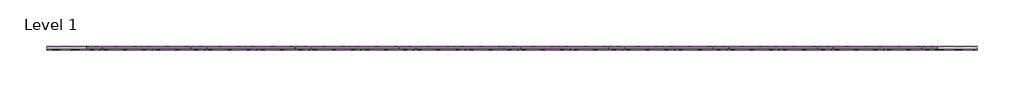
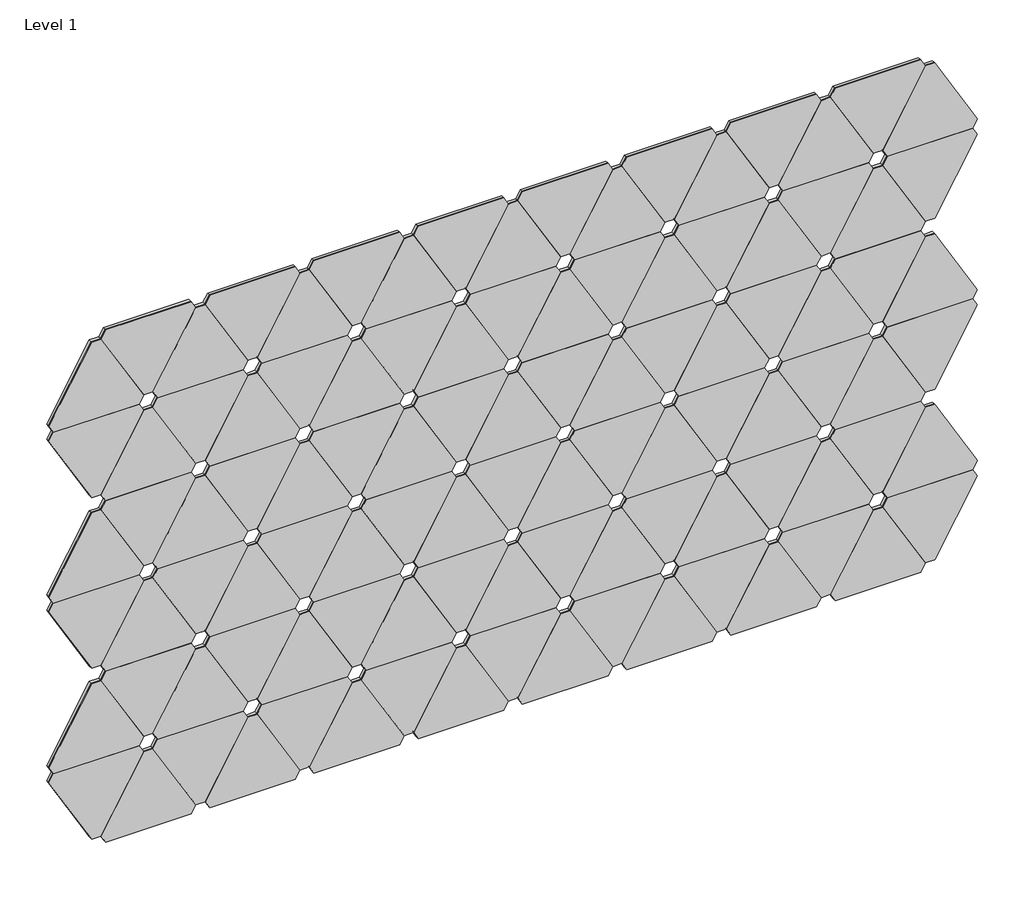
# One storey: 102 proxies.
"""IFC4 building model written with IfcOpenShell, lengths in millimetres."""

from ifc_helpers import new_model, si_unit, origin, place, context, project, spatial, transform, mapped, element, save
from components import aro_block_1_febfece8

model = new_model("IFC4")

# Units and contexts
model_context = context("Model", 3, world=origin())
ifc_project = project(units=[si_unit("LENGTHUNIT", "METRE", prefix="MILLI")], contexts=[model_context])

# Site, building, storey
site = spatial("IfcSite", under=ifc_project)
building = spatial("IfcBuilding", under=site)
storey = spatial("IfcBuildingStorey", under=building, Name="Level 1", Elevation=0.0)

# Proxies
placement = place(None, origin())
aro_block_1_shape = aro_block_1_febfece8(model_context)
element("IfcBuildingElementProxy", 1, Name="FilzFelt_ARO_Block 1 : ARO Block 1", ObjectType="FilzFelt_ARO_Block 1 : ARO Block 1", at=placement, inside=storey, context=model_context, shape_type="MappedRepresentation", body=[
    mapped(aro_block_1_shape, transform((-8273.5652095, 3946.8352795, 1042.1905508), x_axis=(1.0, 0.0, 0.0), y_axis=(0.0, 0.0, 1.0), z_axis=(0.0, -1.0, 0.0))),
])
element("IfcBuildingElementProxy", 2, Name="FilzFelt_ARO_Block 1 : ARO Block 1", ObjectType="FilzFelt_ARO_Block 1 : ARO Block 1", at=placement, inside=storey, context=model_context, shape_type="MappedRepresentation", body=[
    mapped(aro_block_1_shape, transform((-8451.3652095, 3946.8352795, 1144.8434287), x_axis=(-1.0, 0.0, 0.0), y_axis=(0.0, 0.0, -1.0), z_axis=(0.0, -1.0, 0.0))),
])
element("IfcBuildingElementProxy", 3, Name="FilzFelt_ARO_Block 1 : ARO Block 1", ObjectType="FilzFelt_ARO_Block 1 : ARO Block 1", at=placement, inside=storey, context=model_context, shape_type="MappedRepresentation", body=[
    mapped(aro_block_1_shape, transform((-8451.3652095, 3946.8352795, 1350.1491844), x_axis=(1.0, 0.0, 0.0), y_axis=(0.0, 0.0, 1.0), z_axis=(0.0, -1.0, 0.0))),
])
element("IfcBuildingElementProxy", 4, Name="FilzFelt_ARO_Block 1 : ARO Block 1", ObjectType="FilzFelt_ARO_Block 1 : ARO Block 1", at=placement, inside=storey, context=model_context, shape_type="MappedRepresentation", body=[
    mapped(aro_block_1_shape, transform((-8095.7652095, 3946.8352795, 1144.8434287), x_axis=(-1.0, 0.0, 0.0), y_axis=(0.0, 0.0, -1.0), z_axis=(0.0, -1.0, 0.0))),
])
element("IfcBuildingElementProxy", 5, Name="FilzFelt_ARO_Block 1 : ARO Block 1", ObjectType="FilzFelt_ARO_Block 1 : ARO Block 1", at=placement, inside=storey, context=model_context, shape_type="MappedRepresentation", body=[
    mapped(aro_block_1_shape, transform((-7917.9652095, 3946.8352795, 1042.1905508), x_axis=(1.0, 0.0, 0.0), y_axis=(0.0, 0.0, 1.0), z_axis=(0.0, -1.0, 0.0))),
])
element("IfcBuildingElementProxy", 6, Name="FilzFelt_ARO_Block 1 : ARO Block 1", ObjectType="FilzFelt_ARO_Block 1 : ARO Block 1", at=placement, inside=storey, context=model_context, shape_type="MappedRepresentation", body=[
    mapped(aro_block_1_shape, transform((-7917.9652095, 3946.8352795, 836.8847951), x_axis=(-1.0, 0.0, 0.0), y_axis=(0.0, 0.0, -1.0), z_axis=(0.0, -1.0, 0.0))),
])
element("IfcBuildingElementProxy", 7, Name="FilzFelt_ARO_Block 1 : ARO Block 1", ObjectType="FilzFelt_ARO_Block 1 : ARO Block 1", at=placement, inside=storey, context=model_context, shape_type="MappedRepresentation", body=[
    mapped(aro_block_1_shape, transform((-7562.3652095, 3946.8352795, 836.8847951), x_axis=(-1.0, 0.0, 0.0), y_axis=(0.0, 0.0, -1.0), z_axis=(0.0, -1.0, 0.0))),
])
element("IfcBuildingElementProxy", 8, Name="FilzFelt_ARO_Block 1 : ARO Block 1", ObjectType="FilzFelt_ARO_Block 1 : ARO Block 1", at=placement, inside=storey, context=model_context, shape_type="MappedRepresentation", body=[
    mapped(aro_block_1_shape, transform((-7740.1652095, 3946.8352795, 734.2319173), x_axis=(1.0, 0.0, 0.0), y_axis=(0.0, 0.0, 1.0), z_axis=(0.0, -1.0, 0.0))),
])
element("IfcBuildingElementProxy", 9, Name="FilzFelt_ARO_Block 1 : ARO Block 1", ObjectType="FilzFelt_ARO_Block 1 : ARO Block 1", at=placement, inside=storey, context=model_context, shape_type="MappedRepresentation", body=[
    mapped(aro_block_1_shape, transform((-7562.3652095, 3946.8352795, 2274.0250852), x_axis=(1.0, 0.0, 0.0), y_axis=(0.0, 0.0, 1.0), z_axis=(0.0, -1.0, 0.0))),
])
element("IfcBuildingElementProxy", 10, Name="FilzFelt_ARO_Block 1 : ARO Block 1", ObjectType="FilzFelt_ARO_Block 1 : ARO Block 1", at=placement, inside=storey, context=model_context, shape_type="MappedRepresentation", body=[
    mapped(aro_block_1_shape, transform((-7384.5652095, 3946.8352795, 2376.6779631), x_axis=(-1.0, 0.0, 0.0), y_axis=(0.0, 0.0, -1.0), z_axis=(0.0, -1.0, 0.0))),
])
element("IfcBuildingElementProxy", 11, Name="FilzFelt_ARO_Block 1 : ARO Block 1", ObjectType="FilzFelt_ARO_Block 1 : ARO Block 1", at=placement, inside=storey, context=model_context, shape_type="MappedRepresentation", body=[
    mapped(aro_block_1_shape, transform((-7206.7652095, 3946.8352795, 2274.0250852), x_axis=(1.0, 0.0, 0.0), y_axis=(0.0, 0.0, 1.0), z_axis=(0.0, -1.0, 0.0))),
])
element("IfcBuildingElementProxy", 12, Name="FilzFelt_ARO_Block 1 : ARO Block 1", ObjectType="FilzFelt_ARO_Block 1 : ARO Block 1", at=placement, inside=storey, context=model_context, shape_type="MappedRepresentation", body=[
    mapped(aro_block_1_shape, transform((-6851.1652095, 3946.8352795, 2274.0250852), x_axis=(1.0, 0.0, 0.0), y_axis=(0.0, 0.0, 1.0), z_axis=(0.0, -1.0, 0.0))),
])
element("IfcBuildingElementProxy", 13, Name="FilzFelt_ARO_Block 1 : ARO Block 1", ObjectType="FilzFelt_ARO_Block 1 : ARO Block 1", at=placement, inside=storey, context=model_context, shape_type="MappedRepresentation", body=[
    mapped(aro_block_1_shape, transform((-7028.9652095, 3946.8352795, 2376.6779631), x_axis=(-1.0, 0.0, 0.0), y_axis=(0.0, 0.0, -1.0), z_axis=(0.0, -1.0, 0.0))),
])
element("IfcBuildingElementProxy", 14, Name="FilzFelt_ARO_Block 1 : ARO Block 1", ObjectType="FilzFelt_ARO_Block 1 : ARO Block 1", at=placement, inside=storey, context=model_context, shape_type="MappedRepresentation", body=[
    mapped(aro_block_1_shape, transform((-6851.1652095, 3946.8352795, 2068.7193295), x_axis=(-1.0, 0.0, 0.0), y_axis=(0.0, 0.0, -1.0), z_axis=(0.0, -1.0, 0.0))),
])
element("IfcBuildingElementProxy", 15, Name="FilzFelt_ARO_Block 1 : ARO Block 1", ObjectType="FilzFelt_ARO_Block 1 : ARO Block 1", at=placement, inside=storey, context=model_context, shape_type="MappedRepresentation", body=[
    mapped(aro_block_1_shape, transform((-6673.3652095, 3946.8352795, 1966.0664516), x_axis=(1.0, 0.0, 0.0), y_axis=(0.0, 0.0, 1.0), z_axis=(0.0, -1.0, 0.0))),
])
element("IfcBuildingElementProxy", 16, Name="FilzFelt_ARO_Block 1 : ARO Block 1", ObjectType="FilzFelt_ARO_Block 1 : ARO Block 1", at=placement, inside=storey, context=model_context, shape_type="MappedRepresentation", body=[
    mapped(aro_block_1_shape, transform((-6495.5652095, 3946.8352795, 2068.7193295), x_axis=(-1.0, 0.0, 0.0), y_axis=(0.0, 0.0, -1.0), z_axis=(0.0, -1.0, 0.0))),
])
element("IfcBuildingElementProxy", 17, Name="FilzFelt_ARO_Block 1 : ARO Block 1", ObjectType="FilzFelt_ARO_Block 1 : ARO Block 1", at=placement, inside=storey, context=model_context, shape_type="MappedRepresentation", body=[
    mapped(aro_block_1_shape, transform((-6317.7652095, 3946.8352795, 1966.0664516), x_axis=(1.0, 0.0, 0.0), y_axis=(0.0, 0.0, 1.0), z_axis=(0.0, -1.0, 0.0))),
])
element("IfcBuildingElementProxy", 18, Name="FilzFelt_ARO_Block 1 : ARO Block 1", ObjectType="FilzFelt_ARO_Block 1 : ARO Block 1", at=placement, inside=storey, context=model_context, shape_type="MappedRepresentation", body=[
    mapped(aro_block_1_shape, transform((-6139.9652095, 3946.8352795, 2274.0250852), x_axis=(1.0, 0.0, 0.0), y_axis=(0.0, 0.0, 1.0), z_axis=(0.0, -1.0, 0.0))),
])
element("IfcBuildingElementProxy", 19, Name="FilzFelt_ARO_Block 1 : ARO Block 1", ObjectType="FilzFelt_ARO_Block 1 : ARO Block 1", at=placement, inside=storey, context=model_context, shape_type="MappedRepresentation", body=[
    mapped(aro_block_1_shape, transform((-5962.1652095, 3946.8352795, 2376.6779631), x_axis=(-1.0, 0.0, 0.0), y_axis=(0.0, 0.0, -1.0), z_axis=(0.0, -1.0, 0.0))),
])
element("IfcBuildingElementProxy", 20, Name="FilzFelt_ARO_Block 1 : ARO Block 1", ObjectType="FilzFelt_ARO_Block 1 : ARO Block 1", at=placement, inside=storey, context=model_context, shape_type="MappedRepresentation", body=[
    mapped(aro_block_1_shape, transform((-6139.9652095, 3946.8352795, 2068.7193295), x_axis=(-1.0, 0.0, 0.0), y_axis=(0.0, 0.0, -1.0), z_axis=(0.0, -1.0, 0.0))),
])
element("IfcBuildingElementProxy", 21, Name="FilzFelt_ARO_Block 1 : ARO Block 1", ObjectType="FilzFelt_ARO_Block 1 : ARO Block 1", at=placement, inside=storey, context=model_context, shape_type="MappedRepresentation", body=[
    mapped(aro_block_1_shape, transform((-8273.5652095, 3946.8352795, 2068.7193295), x_axis=(-1.0, 0.0, 0.0), y_axis=(0.0, 0.0, -1.0), z_axis=(0.0, -1.0, 0.0))),
])
element("IfcBuildingElementProxy", 22, Name="FilzFelt_ARO_Block 1 : ARO Block 1", ObjectType="FilzFelt_ARO_Block 1 : ARO Block 1", at=placement, inside=storey, context=model_context, shape_type="MappedRepresentation", body=[
    mapped(aro_block_1_shape, transform((-8451.3652095, 3946.8352795, 1966.0664516), x_axis=(1.0, 0.0, 0.0), y_axis=(0.0, 0.0, 1.0), z_axis=(0.0, -1.0, 0.0))),
])
element("IfcBuildingElementProxy", 23, Name="FilzFelt_ARO_Block 1 : ARO Block 1", ObjectType="FilzFelt_ARO_Block 1 : ARO Block 1", at=placement, inside=storey, context=model_context, shape_type="MappedRepresentation", body=[
    mapped(aro_block_1_shape, transform((-8095.7652095, 3946.8352795, 1966.0664516), x_axis=(1.0, 0.0, 0.0), y_axis=(0.0, 0.0, 1.0), z_axis=(0.0, -1.0, 0.0))),
])
element("IfcBuildingElementProxy", 24, Name="FilzFelt_ARO_Block 1 : ARO Block 1", ObjectType="FilzFelt_ARO_Block 1 : ARO Block 1", at=placement, inside=storey, context=model_context, shape_type="MappedRepresentation", body=[
    mapped(aro_block_1_shape, transform((-8095.7652095, 3946.8352795, 1760.7606959), x_axis=(-1.0, 0.0, 0.0), y_axis=(0.0, 0.0, -1.0), z_axis=(0.0, -1.0, 0.0))),
])
element("IfcBuildingElementProxy", 25, Name="FilzFelt_ARO_Block 1 : ARO Block 1", ObjectType="FilzFelt_ARO_Block 1 : ARO Block 1", at=placement, inside=storey, context=model_context, shape_type="MappedRepresentation", body=[
    mapped(aro_block_1_shape, transform((-7917.9652095, 3946.8352795, 1658.107818), x_axis=(1.0, 0.0, 0.0), y_axis=(0.0, 0.0, 1.0), z_axis=(0.0, -1.0, 0.0))),
])
element("IfcBuildingElementProxy", 26, Name="FilzFelt_ARO_Block 1 : ARO Block 1", ObjectType="FilzFelt_ARO_Block 1 : ARO Block 1", at=placement, inside=storey, context=model_context, shape_type="MappedRepresentation", body=[
    mapped(aro_block_1_shape, transform((-7740.1652095, 3946.8352795, 1760.7606959), x_axis=(-1.0, 0.0, 0.0), y_axis=(0.0, 0.0, -1.0), z_axis=(0.0, -1.0, 0.0))),
])
element("IfcBuildingElementProxy", 27, Name="FilzFelt_ARO_Block 1 : ARO Block 1", ObjectType="FilzFelt_ARO_Block 1 : ARO Block 1", at=placement, inside=storey, context=model_context, shape_type="MappedRepresentation", body=[
    mapped(aro_block_1_shape, transform((-7384.5652095, 3946.8352795, 1350.1491844), x_axis=(1.0, 0.0, 0.0), y_axis=(0.0, 0.0, 1.0), z_axis=(0.0, -1.0, 0.0))),
])
element("IfcBuildingElementProxy", 28, Name="FilzFelt_ARO_Block 1 : ARO Block 1", ObjectType="FilzFelt_ARO_Block 1 : ARO Block 1", at=placement, inside=storey, context=model_context, shape_type="MappedRepresentation", body=[
    mapped(aro_block_1_shape, transform((-6851.1652095, 3946.8352795, 1042.1905508), x_axis=(1.0, 0.0, 0.0), y_axis=(0.0, 0.0, 1.0), z_axis=(0.0, -1.0, 0.0))),
])
element("IfcBuildingElementProxy", 29, Name="FilzFelt_ARO_Block 1 : ARO Block 1", ObjectType="FilzFelt_ARO_Block 1 : ARO Block 1", at=placement, inside=storey, context=model_context, shape_type="MappedRepresentation", body=[
    mapped(aro_block_1_shape, transform((-7028.9652095, 3946.8352795, 1144.8434287), x_axis=(-1.0, 0.0, 0.0), y_axis=(0.0, 0.0, -1.0), z_axis=(0.0, -1.0, 0.0))),
])
element("IfcBuildingElementProxy", 30, Name="FilzFelt_ARO_Block 1 : ARO Block 1", ObjectType="FilzFelt_ARO_Block 1 : ARO Block 1", at=placement, inside=storey, context=model_context, shape_type="MappedRepresentation", body=[
    mapped(aro_block_1_shape, transform((-7206.7652095, 3946.8352795, 1452.8020623), x_axis=(-1.0, 0.0, 0.0), y_axis=(0.0, 0.0, -1.0), z_axis=(0.0, -1.0, 0.0))),
])
element("IfcBuildingElementProxy", 31, Name="FilzFelt_ARO_Block 1 : ARO Block 1", ObjectType="FilzFelt_ARO_Block 1 : ARO Block 1", at=placement, inside=storey, context=model_context, shape_type="MappedRepresentation", body=[
    mapped(aro_block_1_shape, transform((-7028.9652095, 3946.8352795, 1350.1491844), x_axis=(1.0, 0.0, 0.0), y_axis=(0.0, 0.0, 1.0), z_axis=(0.0, -1.0, 0.0))),
])
element("IfcBuildingElementProxy", 32, Name="FilzFelt_ARO_Block 1 : ARO Block 1", ObjectType="FilzFelt_ARO_Block 1 : ARO Block 1", at=placement, inside=storey, context=model_context, shape_type="MappedRepresentation", body=[
    mapped(aro_block_1_shape, transform((-6673.3652095, 3946.8352795, 1144.8434287), x_axis=(-1.0, 0.0, 0.0), y_axis=(0.0, 0.0, -1.0), z_axis=(0.0, -1.0, 0.0))),
])
element("IfcBuildingElementProxy", 33, Name="FilzFelt_ARO_Block 1 : ARO Block 1", ObjectType="FilzFelt_ARO_Block 1 : ARO Block 1", at=placement, inside=storey, context=model_context, shape_type="MappedRepresentation", body=[
    mapped(aro_block_1_shape, transform((-6495.5652095, 3946.8352795, 1042.1905508), x_axis=(1.0, 0.0, 0.0), y_axis=(0.0, 0.0, 1.0), z_axis=(0.0, -1.0, 0.0))),
])
element("IfcBuildingElementProxy", 34, Name="FilzFelt_ARO_Block 1 : ARO Block 1", ObjectType="FilzFelt_ARO_Block 1 : ARO Block 1", at=placement, inside=storey, context=model_context, shape_type="MappedRepresentation", body=[
    mapped(aro_block_1_shape, transform((-6317.7652095, 3946.8352795, 1350.1491844), x_axis=(1.0, 0.0, 0.0), y_axis=(0.0, 0.0, 1.0), z_axis=(0.0, -1.0, 0.0))),
])
element("IfcBuildingElementProxy", 35, Name="FilzFelt_ARO_Block 1 : ARO Block 1", ObjectType="FilzFelt_ARO_Block 1 : ARO Block 1", at=placement, inside=storey, context=model_context, shape_type="MappedRepresentation", body=[
    mapped(aro_block_1_shape, transform((-6317.7652095, 3946.8352795, 1144.8434287), x_axis=(-1.0, 0.0, 0.0), y_axis=(0.0, 0.0, -1.0), z_axis=(0.0, -1.0, 0.0))),
])
element("IfcBuildingElementProxy", 36, Name="FilzFelt_ARO_Block 1 : ARO Block 1", ObjectType="FilzFelt_ARO_Block 1 : ARO Block 1", at=placement, inside=storey, context=model_context, shape_type="MappedRepresentation", body=[
    mapped(aro_block_1_shape, transform((-6139.9652095, 3946.8352795, 1452.8020623), x_axis=(-1.0, 0.0, 0.0), y_axis=(0.0, 0.0, -1.0), z_axis=(0.0, -1.0, 0.0))),
])
element("IfcBuildingElementProxy", 37, Name="FilzFelt_ARO_Block 1 : ARO Block 1", ObjectType="FilzFelt_ARO_Block 1 : ARO Block 1", at=placement, inside=storey, context=model_context, shape_type="MappedRepresentation", body=[
    mapped(aro_block_1_shape, transform((-5962.1652095, 3946.8352795, 1350.1491844), x_axis=(1.0, 0.0, 0.0), y_axis=(0.0, 0.0, 1.0), z_axis=(0.0, -1.0, 0.0))),
])
element("IfcBuildingElementProxy", 38, Name="FilzFelt_ARO_Block 1 : ARO Block 1", ObjectType="FilzFelt_ARO_Block 1 : ARO Block 1", at=placement, inside=storey, context=model_context, shape_type="MappedRepresentation", body=[
    mapped(aro_block_1_shape, transform((-8629.1652095, 3946.8352795, 1042.1905508), x_axis=(1.0, 0.0, 0.0), y_axis=(0.0, 0.0, 1.0), z_axis=(0.0, -1.0, 0.0))),
])
element("IfcBuildingElementProxy", 39, Name="FilzFelt_ARO_Block 1 : ARO Block 1", ObjectType="FilzFelt_ARO_Block 1 : ARO Block 1", at=placement, inside=storey, context=model_context, shape_type="MappedRepresentation", body=[
    mapped(aro_block_1_shape, transform((-8629.1652095, 3946.8352795, 836.8847951), x_axis=(-1.0, 0.0, 0.0), y_axis=(0.0, 0.0, -1.0), z_axis=(0.0, -1.0, 0.0))),
])
element("IfcBuildingElementProxy", 40, Name="FilzFelt_ARO_Block 1 : ARO Block 1", ObjectType="FilzFelt_ARO_Block 1 : ARO Block 1", at=placement, inside=storey, context=model_context, shape_type="MappedRepresentation", body=[
    mapped(aro_block_1_shape, transform((-8273.5652095, 3946.8352795, 836.8847951), x_axis=(-1.0, 0.0, 0.0), y_axis=(0.0, 0.0, -1.0), z_axis=(0.0, -1.0, 0.0))),
])
element("IfcBuildingElementProxy", 41, Name="FilzFelt_ARO_Block 1 : ARO Block 1", ObjectType="FilzFelt_ARO_Block 1 : ARO Block 1", at=placement, inside=storey, context=model_context, shape_type="MappedRepresentation", body=[
    mapped(aro_block_1_shape, transform((-8451.3652095, 3946.8352795, 734.2319173), x_axis=(1.0, 0.0, 0.0), y_axis=(0.0, 0.0, 1.0), z_axis=(0.0, -1.0, 0.0))),
])
element("IfcBuildingElementProxy", 42, Name="FilzFelt_ARO_Block 1 : ARO Block 1", ObjectType="FilzFelt_ARO_Block 1 : ARO Block 1", at=placement, inside=storey, context=model_context, shape_type="MappedRepresentation", body=[
    mapped(aro_block_1_shape, transform((-8629.1652095, 3946.8352795, 1658.107818), x_axis=(1.0, 0.0, 0.0), y_axis=(0.0, 0.0, 1.0), z_axis=(0.0, -1.0, 0.0))),
])
element("IfcBuildingElementProxy", 43, Name="FilzFelt_ARO_Block 1 : ARO Block 1", ObjectType="FilzFelt_ARO_Block 1 : ARO Block 1", at=placement, inside=storey, context=model_context, shape_type="MappedRepresentation", body=[
    mapped(aro_block_1_shape, transform((-8273.5652095, 3946.8352795, 1658.107818), x_axis=(1.0, 0.0, 0.0), y_axis=(0.0, 0.0, 1.0), z_axis=(0.0, -1.0, 0.0))),
])
element("IfcBuildingElementProxy", 44, Name="FilzFelt_ARO_Block 1 : ARO Block 1", ObjectType="FilzFelt_ARO_Block 1 : ARO Block 1", at=placement, inside=storey, context=model_context, shape_type="MappedRepresentation", body=[
    mapped(aro_block_1_shape, transform((-8451.3652095, 3946.8352795, 1760.7606959), x_axis=(-1.0, 0.0, 0.0), y_axis=(0.0, 0.0, -1.0), z_axis=(0.0, -1.0, 0.0))),
])
element("IfcBuildingElementProxy", 45, Name="FilzFelt_ARO_Block 1 : ARO Block 1", ObjectType="FilzFelt_ARO_Block 1 : ARO Block 1", at=placement, inside=storey, context=model_context, shape_type="MappedRepresentation", body=[
    mapped(aro_block_1_shape, transform((-8629.1652095, 3946.8352795, 1452.8020623), x_axis=(-1.0, 0.0, 0.0), y_axis=(0.0, 0.0, -1.0), z_axis=(0.0, -1.0, 0.0))),
])
element("IfcBuildingElementProxy", 46, Name="FilzFelt_ARO_Block 1 : ARO Block 1", ObjectType="FilzFelt_ARO_Block 1 : ARO Block 1", at=placement, inside=storey, context=model_context, shape_type="MappedRepresentation", body=[
    mapped(aro_block_1_shape, transform((-8273.5652095, 3946.8352795, 1452.8020623), x_axis=(-1.0, 0.0, 0.0), y_axis=(0.0, 0.0, -1.0), z_axis=(0.0, -1.0, 0.0))),
])
element("IfcBuildingElementProxy", 47, Name="FilzFelt_ARO_Block 1 : ARO Block 1", ObjectType="FilzFelt_ARO_Block 1 : ARO Block 1", at=placement, inside=storey, context=model_context, shape_type="MappedRepresentation", body=[
    mapped(aro_block_1_shape, transform((-8629.1652095, 3946.8352795, 2274.0250852), x_axis=(1.0, 0.0, 0.0), y_axis=(0.0, 0.0, 1.0), z_axis=(0.0, -1.0, 0.0))),
])
element("IfcBuildingElementProxy", 48, Name="FilzFelt_ARO_Block 1 : ARO Block 1", ObjectType="FilzFelt_ARO_Block 1 : ARO Block 1", at=placement, inside=storey, context=model_context, shape_type="MappedRepresentation", body=[
    mapped(aro_block_1_shape, transform((-8273.5652095, 3946.8352795, 2274.0250852), x_axis=(1.0, 0.0, 0.0), y_axis=(0.0, 0.0, 1.0), z_axis=(0.0, -1.0, 0.0))),
])
element("IfcBuildingElementProxy", 49, Name="FilzFelt_ARO_Block 1 : ARO Block 1", ObjectType="FilzFelt_ARO_Block 1 : ARO Block 1", at=placement, inside=storey, context=model_context, shape_type="MappedRepresentation", body=[
    mapped(aro_block_1_shape, transform((-8451.3652095, 3946.8352795, 2376.6779631), x_axis=(-1.0, 0.0, 0.0), y_axis=(0.0, 0.0, -1.0), z_axis=(0.0, -1.0, 0.0))),
])
element("IfcBuildingElementProxy", 50, Name="FilzFelt_ARO_Block 1 : ARO Block 1", ObjectType="FilzFelt_ARO_Block 1 : ARO Block 1", at=placement, inside=storey, context=model_context, shape_type="MappedRepresentation", body=[
    mapped(aro_block_1_shape, transform((-8629.1652095, 3946.8352795, 2068.7193295), x_axis=(-1.0, 0.0, 0.0), y_axis=(0.0, 0.0, -1.0), z_axis=(0.0, -1.0, 0.0))),
])
element("IfcBuildingElementProxy", 51, Name="FilzFelt_ARO_Block 1 : ARO Block 1", ObjectType="FilzFelt_ARO_Block 1 : ARO Block 1", at=placement, inside=storey, context=model_context, shape_type="MappedRepresentation", body=[
    mapped(aro_block_1_shape, transform((-8095.7652095, 3946.8352795, 1350.1491844), x_axis=(1.0, 0.0, 0.0), y_axis=(0.0, 0.0, 1.0), z_axis=(0.0, -1.0, 0.0))),
])
element("IfcBuildingElementProxy", 52, Name="FilzFelt_ARO_Block 1 : ARO Block 1", ObjectType="FilzFelt_ARO_Block 1 : ARO Block 1", at=placement, inside=storey, context=model_context, shape_type="MappedRepresentation", body=[
    mapped(aro_block_1_shape, transform((-8095.7652095, 3946.8352795, 734.2319173), x_axis=(1.0, 0.0, 0.0), y_axis=(0.0, 0.0, 1.0), z_axis=(0.0, -1.0, 0.0))),
])
element("IfcBuildingElementProxy", 53, Name="FilzFelt_ARO_Block 1 : ARO Block 1", ObjectType="FilzFelt_ARO_Block 1 : ARO Block 1", at=placement, inside=storey, context=model_context, shape_type="MappedRepresentation", body=[
    mapped(aro_block_1_shape, transform((-8095.7652095, 3946.8352795, 2376.6779631), x_axis=(-1.0, 0.0, 0.0), y_axis=(0.0, 0.0, -1.0), z_axis=(0.0, -1.0, 0.0))),
])
element("IfcBuildingElementProxy", 54, Name="FilzFelt_ARO_Block 1 : ARO Block 1", ObjectType="FilzFelt_ARO_Block 1 : ARO Block 1", at=placement, inside=storey, context=model_context, shape_type="MappedRepresentation", body=[
    mapped(aro_block_1_shape, transform((-7562.3652095, 3946.8352795, 1042.1905508), x_axis=(1.0, 0.0, 0.0), y_axis=(0.0, 0.0, 1.0), z_axis=(0.0, -1.0, 0.0))),
])
element("IfcBuildingElementProxy", 55, Name="FilzFelt_ARO_Block 1 : ARO Block 1", ObjectType="FilzFelt_ARO_Block 1 : ARO Block 1", at=placement, inside=storey, context=model_context, shape_type="MappedRepresentation", body=[
    mapped(aro_block_1_shape, transform((-7740.1652095, 3946.8352795, 1144.8434287), x_axis=(-1.0, 0.0, 0.0), y_axis=(0.0, 0.0, -1.0), z_axis=(0.0, -1.0, 0.0))),
])
element("IfcBuildingElementProxy", 56, Name="FilzFelt_ARO_Block 1 : ARO Block 1", ObjectType="FilzFelt_ARO_Block 1 : ARO Block 1", at=placement, inside=storey, context=model_context, shape_type="MappedRepresentation", body=[
    mapped(aro_block_1_shape, transform((-7562.3652095, 3946.8352795, 1658.107818), x_axis=(1.0, 0.0, 0.0), y_axis=(0.0, 0.0, 1.0), z_axis=(0.0, -1.0, 0.0))),
])
element("IfcBuildingElementProxy", 57, Name="FilzFelt_ARO_Block 1 : ARO Block 1", ObjectType="FilzFelt_ARO_Block 1 : ARO Block 1", at=placement, inside=storey, context=model_context, shape_type="MappedRepresentation", body=[
    mapped(aro_block_1_shape, transform((-7917.9652095, 3946.8352795, 1452.8020623), x_axis=(-1.0, 0.0, 0.0), y_axis=(0.0, 0.0, -1.0), z_axis=(0.0, -1.0, 0.0))),
])
element("IfcBuildingElementProxy", 58, Name="FilzFelt_ARO_Block 1 : ARO Block 1", ObjectType="FilzFelt_ARO_Block 1 : ARO Block 1", at=placement, inside=storey, context=model_context, shape_type="MappedRepresentation", body=[
    mapped(aro_block_1_shape, transform((-7562.3652095, 3946.8352795, 1452.8020623), x_axis=(-1.0, 0.0, 0.0), y_axis=(0.0, 0.0, -1.0), z_axis=(0.0, -1.0, 0.0))),
])
element("IfcBuildingElementProxy", 59, Name="FilzFelt_ARO_Block 1 : ARO Block 1", ObjectType="FilzFelt_ARO_Block 1 : ARO Block 1", at=placement, inside=storey, context=model_context, shape_type="MappedRepresentation", body=[
    mapped(aro_block_1_shape, transform((-7740.1652095, 3946.8352795, 1350.1491844), x_axis=(1.0, 0.0, 0.0), y_axis=(0.0, 0.0, 1.0), z_axis=(0.0, -1.0, 0.0))),
])
element("IfcBuildingElementProxy", 60, Name="FilzFelt_ARO_Block 1 : ARO Block 1", ObjectType="FilzFelt_ARO_Block 1 : ARO Block 1", at=placement, inside=storey, context=model_context, shape_type="MappedRepresentation", body=[
    mapped(aro_block_1_shape, transform((-7917.9652095, 3946.8352795, 2274.0250852), x_axis=(1.0, 0.0, 0.0), y_axis=(0.0, 0.0, 1.0), z_axis=(0.0, -1.0, 0.0))),
])
element("IfcBuildingElementProxy", 61, Name="FilzFelt_ARO_Block 1 : ARO Block 1", ObjectType="FilzFelt_ARO_Block 1 : ARO Block 1", at=placement, inside=storey, context=model_context, shape_type="MappedRepresentation", body=[
    mapped(aro_block_1_shape, transform((-7740.1652095, 3946.8352795, 2376.6779631), x_axis=(-1.0, 0.0, 0.0), y_axis=(0.0, 0.0, -1.0), z_axis=(0.0, -1.0, 0.0))),
])
element("IfcBuildingElementProxy", 62, Name="FilzFelt_ARO_Block 1 : ARO Block 1", ObjectType="FilzFelt_ARO_Block 1 : ARO Block 1", at=placement, inside=storey, context=model_context, shape_type="MappedRepresentation", body=[
    mapped(aro_block_1_shape, transform((-7917.9652095, 3946.8352795, 2068.7193295), x_axis=(-1.0, 0.0, 0.0), y_axis=(0.0, 0.0, -1.0), z_axis=(0.0, -1.0, 0.0))),
])
element("IfcBuildingElementProxy", 63, Name="FilzFelt_ARO_Block 1 : ARO Block 1", ObjectType="FilzFelt_ARO_Block 1 : ARO Block 1", at=placement, inside=storey, context=model_context, shape_type="MappedRepresentation", body=[
    mapped(aro_block_1_shape, transform((-7562.3652095, 3946.8352795, 2068.7193295), x_axis=(-1.0, 0.0, 0.0), y_axis=(0.0, 0.0, -1.0), z_axis=(0.0, -1.0, 0.0))),
])
element("IfcBuildingElementProxy", 64, Name="FilzFelt_ARO_Block 1 : ARO Block 1", ObjectType="FilzFelt_ARO_Block 1 : ARO Block 1", at=placement, inside=storey, context=model_context, shape_type="MappedRepresentation", body=[
    mapped(aro_block_1_shape, transform((-7740.1652095, 3946.8352795, 1966.0664516), x_axis=(1.0, 0.0, 0.0), y_axis=(0.0, 0.0, 1.0), z_axis=(0.0, -1.0, 0.0))),
])
element("IfcBuildingElementProxy", 65, Name="FilzFelt_ARO_Block 1 : ARO Block 1", ObjectType="FilzFelt_ARO_Block 1 : ARO Block 1", at=placement, inside=storey, context=model_context, shape_type="MappedRepresentation", body=[
    mapped(aro_block_1_shape, transform((-7384.5652095, 3946.8352795, 1966.0664516), x_axis=(1.0, 0.0, 0.0), y_axis=(0.0, 0.0, 1.0), z_axis=(0.0, -1.0, 0.0))),
])
element("IfcBuildingElementProxy", 66, Name="FilzFelt_ARO_Block 1 : ARO Block 1", ObjectType="FilzFelt_ARO_Block 1 : ARO Block 1", at=placement, inside=storey, context=model_context, shape_type="MappedRepresentation", body=[
    mapped(aro_block_1_shape, transform((-7384.5652095, 3946.8352795, 734.2319173), x_axis=(1.0, 0.0, 0.0), y_axis=(0.0, 0.0, 1.0), z_axis=(0.0, -1.0, 0.0))),
])
element("IfcBuildingElementProxy", 67, Name="FilzFelt_ARO_Block 1 : ARO Block 1", ObjectType="FilzFelt_ARO_Block 1 : ARO Block 1", at=placement, inside=storey, context=model_context, shape_type="MappedRepresentation", body=[
    mapped(aro_block_1_shape, transform((-7384.5652095, 3946.8352795, 1144.8434287), x_axis=(-1.0, 0.0, 0.0), y_axis=(0.0, 0.0, -1.0), z_axis=(0.0, -1.0, 0.0))),
])
element("IfcBuildingElementProxy", 68, Name="FilzFelt_ARO_Block 1 : ARO Block 1", ObjectType="FilzFelt_ARO_Block 1 : ARO Block 1", at=placement, inside=storey, context=model_context, shape_type="MappedRepresentation", body=[
    mapped(aro_block_1_shape, transform((-7384.5652095, 3946.8352795, 1760.7606959), x_axis=(-1.0, 0.0, 0.0), y_axis=(0.0, 0.0, -1.0), z_axis=(0.0, -1.0, 0.0))),
])
element("IfcBuildingElementProxy", 69, Name="FilzFelt_ARO_Block 1 : ARO Block 1", ObjectType="FilzFelt_ARO_Block 1 : ARO Block 1", at=placement, inside=storey, context=model_context, shape_type="MappedRepresentation", body=[
    mapped(aro_block_1_shape, transform((-7206.7652095, 3946.8352795, 1042.1905508), x_axis=(1.0, 0.0, 0.0), y_axis=(0.0, 0.0, 1.0), z_axis=(0.0, -1.0, 0.0))),
])
element("IfcBuildingElementProxy", 70, Name="FilzFelt_ARO_Block 1 : ARO Block 1", ObjectType="FilzFelt_ARO_Block 1 : ARO Block 1", at=placement, inside=storey, context=model_context, shape_type="MappedRepresentation", body=[
    mapped(aro_block_1_shape, transform((-7206.7652095, 3946.8352795, 836.8847951), x_axis=(-1.0, 0.0, 0.0), y_axis=(0.0, 0.0, -1.0), z_axis=(0.0, -1.0, 0.0))),
])
element("IfcBuildingElementProxy", 71, Name="FilzFelt_ARO_Block 1 : ARO Block 1", ObjectType="FilzFelt_ARO_Block 1 : ARO Block 1", at=placement, inside=storey, context=model_context, shape_type="MappedRepresentation", body=[
    mapped(aro_block_1_shape, transform((-6851.1652095, 3946.8352795, 836.8847951), x_axis=(-1.0, 0.0, 0.0), y_axis=(0.0, 0.0, -1.0), z_axis=(0.0, -1.0, 0.0))),
])
element("IfcBuildingElementProxy", 72, Name="FilzFelt_ARO_Block 1 : ARO Block 1", ObjectType="FilzFelt_ARO_Block 1 : ARO Block 1", at=placement, inside=storey, context=model_context, shape_type="MappedRepresentation", body=[
    mapped(aro_block_1_shape, transform((-7028.9652095, 3946.8352795, 734.2319173), x_axis=(1.0, 0.0, 0.0), y_axis=(0.0, 0.0, 1.0), z_axis=(0.0, -1.0, 0.0))),
])
element("IfcBuildingElementProxy", 73, Name="FilzFelt_ARO_Block 1 : ARO Block 1", ObjectType="FilzFelt_ARO_Block 1 : ARO Block 1", at=placement, inside=storey, context=model_context, shape_type="MappedRepresentation", body=[
    mapped(aro_block_1_shape, transform((-7206.7652095, 3946.8352795, 1658.107818), x_axis=(1.0, 0.0, 0.0), y_axis=(0.0, 0.0, 1.0), z_axis=(0.0, -1.0, 0.0))),
])
element("IfcBuildingElementProxy", 74, Name="FilzFelt_ARO_Block 1 : ARO Block 1", ObjectType="FilzFelt_ARO_Block 1 : ARO Block 1", at=placement, inside=storey, context=model_context, shape_type="MappedRepresentation", body=[
    mapped(aro_block_1_shape, transform((-6851.1652095, 3946.8352795, 1658.107818), x_axis=(1.0, 0.0, 0.0), y_axis=(0.0, 0.0, 1.0), z_axis=(0.0, -1.0, 0.0))),
])
element("IfcBuildingElementProxy", 75, Name="FilzFelt_ARO_Block 1 : ARO Block 1", ObjectType="FilzFelt_ARO_Block 1 : ARO Block 1", at=placement, inside=storey, context=model_context, shape_type="MappedRepresentation", body=[
    mapped(aro_block_1_shape, transform((-7028.9652095, 3946.8352795, 1760.7606959), x_axis=(-1.0, 0.0, 0.0), y_axis=(0.0, 0.0, -1.0), z_axis=(0.0, -1.0, 0.0))),
])
element("IfcBuildingElementProxy", 76, Name="FilzFelt_ARO_Block 1 : ARO Block 1", ObjectType="FilzFelt_ARO_Block 1 : ARO Block 1", at=placement, inside=storey, context=model_context, shape_type="MappedRepresentation", body=[
    mapped(aro_block_1_shape, transform((-6851.1652095, 3946.8352795, 1452.8020623), x_axis=(-1.0, 0.0, 0.0), y_axis=(0.0, 0.0, -1.0), z_axis=(0.0, -1.0, 0.0))),
])
element("IfcBuildingElementProxy", 77, Name="FilzFelt_ARO_Block 1 : ARO Block 1", ObjectType="FilzFelt_ARO_Block 1 : ARO Block 1", at=placement, inside=storey, context=model_context, shape_type="MappedRepresentation", body=[
    mapped(aro_block_1_shape, transform((-7206.7652095, 3946.8352795, 2068.7193295), x_axis=(-1.0, 0.0, 0.0), y_axis=(0.0, 0.0, -1.0), z_axis=(0.0, -1.0, 0.0))),
])
element("IfcBuildingElementProxy", 78, Name="FilzFelt_ARO_Block 1 : ARO Block 1", ObjectType="FilzFelt_ARO_Block 1 : ARO Block 1", at=placement, inside=storey, context=model_context, shape_type="MappedRepresentation", body=[
    mapped(aro_block_1_shape, transform((-7028.9652095, 3946.8352795, 1966.0664516), x_axis=(1.0, 0.0, 0.0), y_axis=(0.0, 0.0, 1.0), z_axis=(0.0, -1.0, 0.0))),
])
element("IfcBuildingElementProxy", 79, Name="FilzFelt_ARO_Block 1 : ARO Block 1", ObjectType="FilzFelt_ARO_Block 1 : ARO Block 1", at=placement, inside=storey, context=model_context, shape_type="MappedRepresentation", body=[
    mapped(aro_block_1_shape, transform((-6673.3652095, 3946.8352795, 1350.1491844), x_axis=(1.0, 0.0, 0.0), y_axis=(0.0, 0.0, 1.0), z_axis=(0.0, -1.0, 0.0))),
])
element("IfcBuildingElementProxy", 80, Name="FilzFelt_ARO_Block 1 : ARO Block 1", ObjectType="FilzFelt_ARO_Block 1 : ARO Block 1", at=placement, inside=storey, context=model_context, shape_type="MappedRepresentation", body=[
    mapped(aro_block_1_shape, transform((-6673.3652095, 3946.8352795, 734.2319173), x_axis=(1.0, 0.0, 0.0), y_axis=(0.0, 0.0, 1.0), z_axis=(0.0, -1.0, 0.0))),
])
element("IfcBuildingElementProxy", 81, Name="FilzFelt_ARO_Block 1 : ARO Block 1", ObjectType="FilzFelt_ARO_Block 1 : ARO Block 1", at=placement, inside=storey, context=model_context, shape_type="MappedRepresentation", body=[
    mapped(aro_block_1_shape, transform((-6673.3652095, 3946.8352795, 1760.7606959), x_axis=(-1.0, 0.0, 0.0), y_axis=(0.0, 0.0, -1.0), z_axis=(0.0, -1.0, 0.0))),
])
element("IfcBuildingElementProxy", 82, Name="FilzFelt_ARO_Block 1 : ARO Block 1", ObjectType="FilzFelt_ARO_Block 1 : ARO Block 1", at=placement, inside=storey, context=model_context, shape_type="MappedRepresentation", body=[
    mapped(aro_block_1_shape, transform((-6673.3652095, 3946.8352795, 2376.6779631), x_axis=(-1.0, 0.0, 0.0), y_axis=(0.0, 0.0, -1.0), z_axis=(0.0, -1.0, 0.0))),
])
element("IfcBuildingElementProxy", 83, Name="FilzFelt_ARO_Block 1 : ARO Block 1", ObjectType="FilzFelt_ARO_Block 1 : ARO Block 1", at=placement, inside=storey, context=model_context, shape_type="MappedRepresentation", body=[
    mapped(aro_block_1_shape, transform((-6495.5652095, 3946.8352795, 836.8847951), x_axis=(-1.0, 0.0, 0.0), y_axis=(0.0, 0.0, -1.0), z_axis=(0.0, -1.0, 0.0))),
])
element("IfcBuildingElementProxy", 84, Name="FilzFelt_ARO_Block 1 : ARO Block 1", ObjectType="FilzFelt_ARO_Block 1 : ARO Block 1", at=placement, inside=storey, context=model_context, shape_type="MappedRepresentation", body=[
    mapped(aro_block_1_shape, transform((-6495.5652095, 3946.8352795, 1658.107818), x_axis=(1.0, 0.0, 0.0), y_axis=(0.0, 0.0, 1.0), z_axis=(0.0, -1.0, 0.0))),
])
element("IfcBuildingElementProxy", 85, Name="FilzFelt_ARO_Block 1 : ARO Block 1", ObjectType="FilzFelt_ARO_Block 1 : ARO Block 1", at=placement, inside=storey, context=model_context, shape_type="MappedRepresentation", body=[
    mapped(aro_block_1_shape, transform((-6495.5652095, 3946.8352795, 1452.8020623), x_axis=(-1.0, 0.0, 0.0), y_axis=(0.0, 0.0, -1.0), z_axis=(0.0, -1.0, 0.0))),
])
element("IfcBuildingElementProxy", 86, Name="FilzFelt_ARO_Block 1 : ARO Block 1", ObjectType="FilzFelt_ARO_Block 1 : ARO Block 1", at=placement, inside=storey, context=model_context, shape_type="MappedRepresentation", body=[
    mapped(aro_block_1_shape, transform((-6495.5652095, 3946.8352795, 2274.0250852), x_axis=(1.0, 0.0, 0.0), y_axis=(0.0, 0.0, 1.0), z_axis=(0.0, -1.0, 0.0))),
])
element("IfcBuildingElementProxy", 87, Name="FilzFelt_ARO_Block 1 : ARO Block 1", ObjectType="FilzFelt_ARO_Block 1 : ARO Block 1", at=placement, inside=storey, context=model_context, shape_type="MappedRepresentation", body=[
    mapped(aro_block_1_shape, transform((-6317.7652095, 3946.8352795, 734.2319173), x_axis=(1.0, 0.0, 0.0), y_axis=(0.0, 0.0, 1.0), z_axis=(0.0, -1.0, 0.0))),
])
element("IfcBuildingElementProxy", 88, Name="FilzFelt_ARO_Block 1 : ARO Block 1", ObjectType="FilzFelt_ARO_Block 1 : ARO Block 1", at=placement, inside=storey, context=model_context, shape_type="MappedRepresentation", body=[
    mapped(aro_block_1_shape, transform((-6317.7652095, 3946.8352795, 1760.7606959), x_axis=(-1.0, 0.0, 0.0), y_axis=(0.0, 0.0, -1.0), z_axis=(0.0, -1.0, 0.0))),
])
element("IfcBuildingElementProxy", 89, Name="FilzFelt_ARO_Block 1 : ARO Block 1", ObjectType="FilzFelt_ARO_Block 1 : ARO Block 1", at=placement, inside=storey, context=model_context, shape_type="MappedRepresentation", body=[
    mapped(aro_block_1_shape, transform((-6317.7652095, 3946.8352795, 2376.6779631), x_axis=(-1.0, 0.0, 0.0), y_axis=(0.0, 0.0, -1.0), z_axis=(0.0, -1.0, 0.0))),
])
element("IfcBuildingElementProxy", 90, Name="FilzFelt_ARO_Block 1 : ARO Block 1", ObjectType="FilzFelt_ARO_Block 1 : ARO Block 1", at=placement, inside=storey, context=model_context, shape_type="MappedRepresentation", body=[
    mapped(aro_block_1_shape, transform((-6139.9652095, 3946.8352795, 1042.1905508), x_axis=(1.0, 0.0, 0.0), y_axis=(0.0, 0.0, 1.0), z_axis=(0.0, -1.0, 0.0))),
])
element("IfcBuildingElementProxy", 91, Name="FilzFelt_ARO_Block 1 : ARO Block 1", ObjectType="FilzFelt_ARO_Block 1 : ARO Block 1", at=placement, inside=storey, context=model_context, shape_type="MappedRepresentation", body=[
    mapped(aro_block_1_shape, transform((-5962.1652095, 3946.8352795, 1144.8434287), x_axis=(-1.0, 0.0, 0.0), y_axis=(0.0, 0.0, -1.0), z_axis=(0.0, -1.0, 0.0))),
])
element("IfcBuildingElementProxy", 92, Name="FilzFelt_ARO_Block 1 : ARO Block 1", ObjectType="FilzFelt_ARO_Block 1 : ARO Block 1", at=placement, inside=storey, context=model_context, shape_type="MappedRepresentation", body=[
    mapped(aro_block_1_shape, transform((-6139.9652095, 3946.8352795, 836.8847951), x_axis=(-1.0, 0.0, 0.0), y_axis=(0.0, 0.0, -1.0), z_axis=(0.0, -1.0, 0.0))),
])
element("IfcBuildingElementProxy", 93, Name="FilzFelt_ARO_Block 1 : ARO Block 1", ObjectType="FilzFelt_ARO_Block 1 : ARO Block 1", at=placement, inside=storey, context=model_context, shape_type="MappedRepresentation", body=[
    mapped(aro_block_1_shape, transform((-5962.1652095, 3946.8352795, 734.2319173), x_axis=(1.0, 0.0, 0.0), y_axis=(0.0, 0.0, 1.0), z_axis=(0.0, -1.0, 0.0))),
])
element("IfcBuildingElementProxy", 94, Name="FilzFelt_ARO_Block 1 : ARO Block 1", ObjectType="FilzFelt_ARO_Block 1 : ARO Block 1", at=placement, inside=storey, context=model_context, shape_type="MappedRepresentation", body=[
    mapped(aro_block_1_shape, transform((-6139.9652095, 3946.8352795, 1658.107818), x_axis=(1.0, 0.0, 0.0), y_axis=(0.0, 0.0, 1.0), z_axis=(0.0, -1.0, 0.0))),
])
element("IfcBuildingElementProxy", 95, Name="FilzFelt_ARO_Block 1 : ARO Block 1", ObjectType="FilzFelt_ARO_Block 1 : ARO Block 1", at=placement, inside=storey, context=model_context, shape_type="MappedRepresentation", body=[
    mapped(aro_block_1_shape, transform((-5962.1652095, 3946.8352795, 1760.7606959), x_axis=(-1.0, 0.0, 0.0), y_axis=(0.0, 0.0, -1.0), z_axis=(0.0, -1.0, 0.0))),
])
element("IfcBuildingElementProxy", 96, Name="FilzFelt_ARO_Block 1 : ARO Block 1", ObjectType="FilzFelt_ARO_Block 1 : ARO Block 1", at=placement, inside=storey, context=model_context, shape_type="MappedRepresentation", body=[
    mapped(aro_block_1_shape, transform((-5962.1652095, 3946.8352795, 1966.0664516), x_axis=(1.0, 0.0, 0.0), y_axis=(0.0, 0.0, 1.0), z_axis=(0.0, -1.0, 0.0))),
])
element("IfcBuildingElementProxy", 97, Name="FilzFelt_ARO_Block 1 : ARO Block 1", ObjectType="FilzFelt_ARO_Block 1 : ARO Block 1", at=placement, inside=storey, context=model_context, shape_type="MappedRepresentation", body=[
    mapped(aro_block_1_shape, transform((-5784.3652095, 3946.8352795, 2274.0250852), x_axis=(1.0, 0.0, 0.0), y_axis=(0.0, 0.0, 1.0), z_axis=(0.0, -1.0, 0.0))),
])
element("IfcBuildingElementProxy", 98, Name="FilzFelt_ARO_Block 1 : ARO Block 1", ObjectType="FilzFelt_ARO_Block 1 : ARO Block 1", at=placement, inside=storey, context=model_context, shape_type="MappedRepresentation", body=[
    mapped(aro_block_1_shape, transform((-5784.3652095, 3946.8352795, 2068.7193295), x_axis=(-1.0, 0.0, 0.0), y_axis=(0.0, 0.0, -1.0), z_axis=(0.0, -1.0, 0.0))),
])
element("IfcBuildingElementProxy", 99, Name="FilzFelt_ARO_Block 1 : ARO Block 1", ObjectType="FilzFelt_ARO_Block 1 : ARO Block 1", at=placement, inside=storey, context=model_context, shape_type="MappedRepresentation", body=[
    mapped(aro_block_1_shape, transform((-5784.3652095, 3946.8352795, 1452.8020623), x_axis=(-1.0, 0.0, 0.0), y_axis=(0.0, 0.0, -1.0), z_axis=(0.0, -1.0, 0.0))),
])
element("IfcBuildingElementProxy", 100, Name="FilzFelt_ARO_Block 1 : ARO Block 1", ObjectType="FilzFelt_ARO_Block 1 : ARO Block 1", at=placement, inside=storey, context=model_context, shape_type="MappedRepresentation", body=[
    mapped(aro_block_1_shape, transform((-5784.3652095, 3946.8352795, 1658.107818), x_axis=(1.0, 0.0, 0.0), y_axis=(0.0, 0.0, 1.0), z_axis=(0.0, -1.0, 0.0))),
])
element("IfcBuildingElementProxy", 101, Name="FilzFelt_ARO_Block 1 : ARO Block 1", ObjectType="FilzFelt_ARO_Block 1 : ARO Block 1", at=placement, inside=storey, context=model_context, shape_type="MappedRepresentation", body=[
    mapped(aro_block_1_shape, transform((-5784.3652095, 3946.8352795, 1042.1905508), x_axis=(1.0, 0.0, 0.0), y_axis=(0.0, 0.0, 1.0), z_axis=(0.0, -1.0, 0.0))),
])
element("IfcBuildingElementProxy", 102, Name="FilzFelt_ARO_Block 1 : ARO Block 1", ObjectType="FilzFelt_ARO_Block 1 : ARO Block 1", at=placement, inside=storey, context=model_context, shape_type="MappedRepresentation", body=[
    mapped(aro_block_1_shape, transform((-5784.3652095, 3946.8352795, 836.8847951), x_axis=(-1.0, 0.0, 0.0), y_axis=(0.0, 0.0, -1.0), z_axis=(0.0, -1.0, 0.0))),
])

save(model, "model.ifc")
